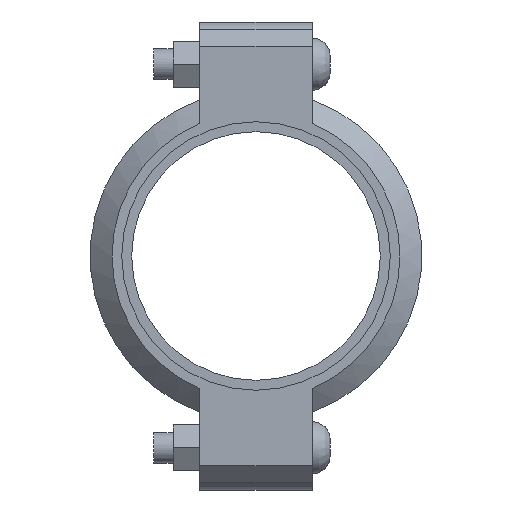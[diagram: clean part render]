
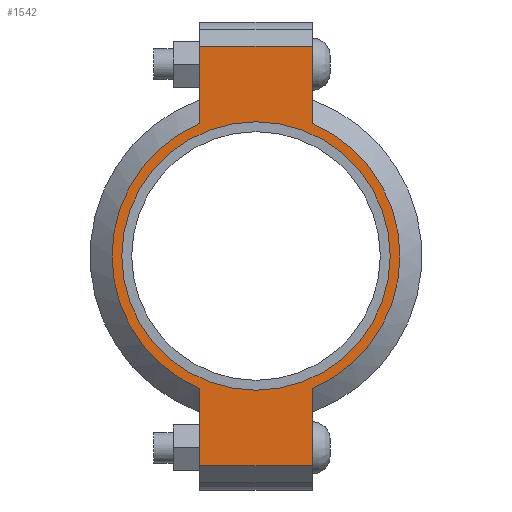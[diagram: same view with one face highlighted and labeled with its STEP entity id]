
A CAD part, left-side view. The second image highlights one B-rep face of the part: STEP entity #1542.
In plain terms, the highlighted planar face has unit normal (-1, 0, 0) as drawn and (0, 0, 1) by its records, which use the part's own axes.
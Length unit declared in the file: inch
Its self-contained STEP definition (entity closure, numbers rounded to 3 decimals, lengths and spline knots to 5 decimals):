
#166=LINE('',#2700,#259);
#174=LINE('',#2736,#267);
#181=LINE('',#2757,#274);
#190=LINE('',#2789,#283);
#191=LINE('',#2793,#284);
#192=LINE('',#2795,#285);
#259=VECTOR('',#2204,0.3937);
#267=VECTOR('',#2220,0.3937);
#274=VECTOR('',#2239,0.3937);
#283=VECTOR('',#2264,0.3937);
#284=VECTOR('',#2269,0.3937);
#285=VECTOR('',#2270,0.3937);
#341=FACE_BOUND('',#519,.T.);
#413=FACE_OUTER_BOUND('',#518,.T.);
#518=EDGE_LOOP('',(#1283,#1284,#1285,#1286,#1287,#1288,#1289,#1290));
#519=EDGE_LOOP('',(#1291));
#591=CIRCLE('',#1770,2.75);
#617=CIRCLE('',#1829,2.95);
#618=CIRCLE('',#1830,2.95);
#683=VERTEX_POINT('',#2516);
#726=VERTEX_POINT('',#2697);
#727=VERTEX_POINT('',#2699);
#738=VERTEX_POINT('',#2731);
#739=VERTEX_POINT('',#2735);
#746=VERTEX_POINT('',#2754);
#747=VERTEX_POINT('',#2756);
#757=VERTEX_POINT('',#2792);
#758=VERTEX_POINT('',#2794);
#839=EDGE_CURVE('',#683,#683,#591,.T.);
#900=EDGE_CURVE('',#727,#726,#166,.T.);
#914=EDGE_CURVE('',#739,#738,#174,.T.);
#924=EDGE_CURVE('',#747,#746,#181,.T.);
#939=EDGE_CURVE('',#739,#726,#190,.T.);
#940=EDGE_CURVE('',#738,#747,#617,.T.);
#941=EDGE_CURVE('',#757,#746,#191,.T.);
#942=EDGE_CURVE('',#757,#758,#192,.T.);
#943=EDGE_CURVE('',#758,#727,#618,.T.);
#1283=ORIENTED_EDGE('',*,*,#939,.F.);
#1284=ORIENTED_EDGE('',*,*,#914,.T.);
#1285=ORIENTED_EDGE('',*,*,#940,.T.);
#1286=ORIENTED_EDGE('',*,*,#924,.T.);
#1287=ORIENTED_EDGE('',*,*,#941,.F.);
#1288=ORIENTED_EDGE('',*,*,#942,.T.);
#1289=ORIENTED_EDGE('',*,*,#943,.T.);
#1290=ORIENTED_EDGE('',*,*,#900,.T.);
#1291=ORIENTED_EDGE('',*,*,#839,.T.);
#1384=PLANE('',#1828);
#1542=ADVANCED_FACE('',(#413,#341),#1384,.T.);
#1770=AXIS2_PLACEMENT_3D('',#2518,#2080,#2081);
#1828=AXIS2_PLACEMENT_3D('',#2790,#2265,#2266);
#1829=AXIS2_PLACEMENT_3D('',#2791,#2267,#2268);
#1830=AXIS2_PLACEMENT_3D('',#2796,#2271,#2272);
#2080=DIRECTION('center_axis',(0.,0.,-1.));
#2081=DIRECTION('ref_axis',(1.,0.,0.));
#2204=DIRECTION('',(1.,0.,0.));
#2220=DIRECTION('',(-1.,0.,0.));
#2239=DIRECTION('',(-1.,0.,0.));
#2264=DIRECTION('',(0.,-1.,0.));
#2265=DIRECTION('center_axis',(0.,0.,1.));
#2266=DIRECTION('ref_axis',(-1.,0.,0.));
#2267=DIRECTION('center_axis',(0.,0.,1.));
#2268=DIRECTION('ref_axis',(1.,0.,0.));
#2269=DIRECTION('',(0.,1.,0.));
#2270=DIRECTION('',(1.,0.,0.));
#2271=DIRECTION('center_axis',(0.,0.,1.));
#2272=DIRECTION('ref_axis',(1.,0.,0.));
#2516=CARTESIAN_POINT('',(-2.75,0.,1.065));
#2518=CARTESIAN_POINT('Origin',(0.,0.,1.065));
#2697=CARTESIAN_POINT('',(4.295,-1.15,1.065));
#2699=CARTESIAN_POINT('',(2.71662,-1.15,1.065));
#2700=CARTESIAN_POINT('',(4.795,-1.15,1.065));
#2731=CARTESIAN_POINT('',(2.71662,1.15,1.065));
#2735=CARTESIAN_POINT('',(4.295,1.15,1.065));
#2736=CARTESIAN_POINT('',(-4.795,1.15,1.065));
#2754=CARTESIAN_POINT('',(-4.295,1.15,1.065));
#2756=CARTESIAN_POINT('',(-2.71662,1.15,1.065));
#2757=CARTESIAN_POINT('',(-4.795,1.15,1.065));
#2789=CARTESIAN_POINT('',(4.295,-0.575,1.065));
#2790=CARTESIAN_POINT('Origin',(0.,0.,
1.065));
#2791=CARTESIAN_POINT('Origin',(0.,0.,1.065));
#2792=CARTESIAN_POINT('',(-4.295,-1.15,1.065));
#2793=CARTESIAN_POINT('',(-4.295,0.575,1.065));
#2794=CARTESIAN_POINT('',(-2.71662,-1.15,1.065));
#2795=CARTESIAN_POINT('',(4.795,-1.15,1.065));
#2796=CARTESIAN_POINT('Origin',(0.,0.,1.065));
